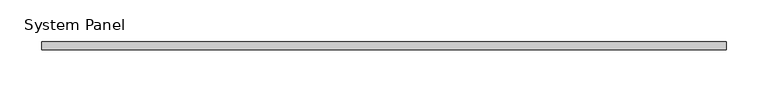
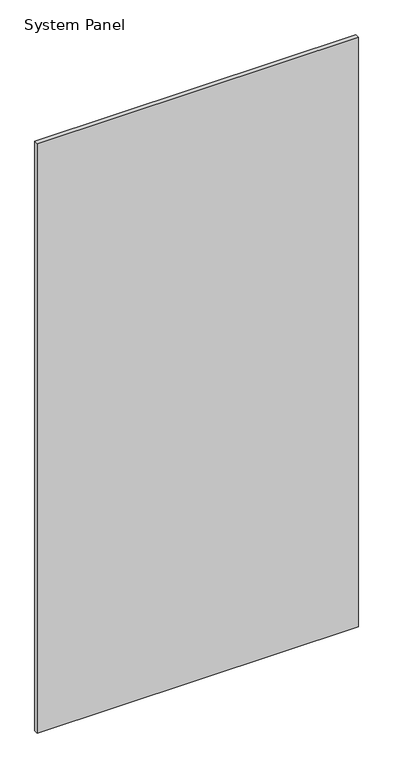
"""IFC4 building model written with IfcOpenShell, lengths in millimetres: plate geometry, System Panel : стекло_смещение_0."""

from ifc_helpers import new_model, si_unit, origin, origin_with_axes, place, context, project, spatial, polyline, outline, extrude, source, transform, mapped, element, save


def system_panel_37a9f239(model_context):
    return source(origin(), model_context, "Body", "SweptSolid", [
        extrude(outline(polyline([(412.5, -5.0), (-412.5, -5.0), (-412.5, 5.0), (412.5, 5.0), (412.5, -5.0)])), origin_with_axes(), (0.0, 0.0, 1.0), 1600.0),
    ])


if __name__ == "__main__":
    model = new_model("IFC4")
    model_context = context("Model", 3, world=origin())
    ifc_project = project(units=[si_unit("LENGTHUNIT", "METRE", prefix="MILLI")], contexts=[model_context])
    site = spatial("IfcSite", under=ifc_project)
    building = spatial("IfcBuilding", under=site)
    placement = place(None, origin())
    system_panel_shape = system_panel_37a9f239(model_context)
    element("IfcPlate", 1, ObjectType="System Panel : стекло_смещение_0", at=placement, inside=building, context=model_context, shape_type="MappedRepresentation", body=[
        mapped(system_panel_shape, transform((0.0, 0.0, 0.0), x_axis=(1.0, 0.0, 0.0), y_axis=(0.0, 1.0, 0.0), z_axis=(0.0, 0.0, 1.0))),
    ])
    save(model, "model.ifc")
